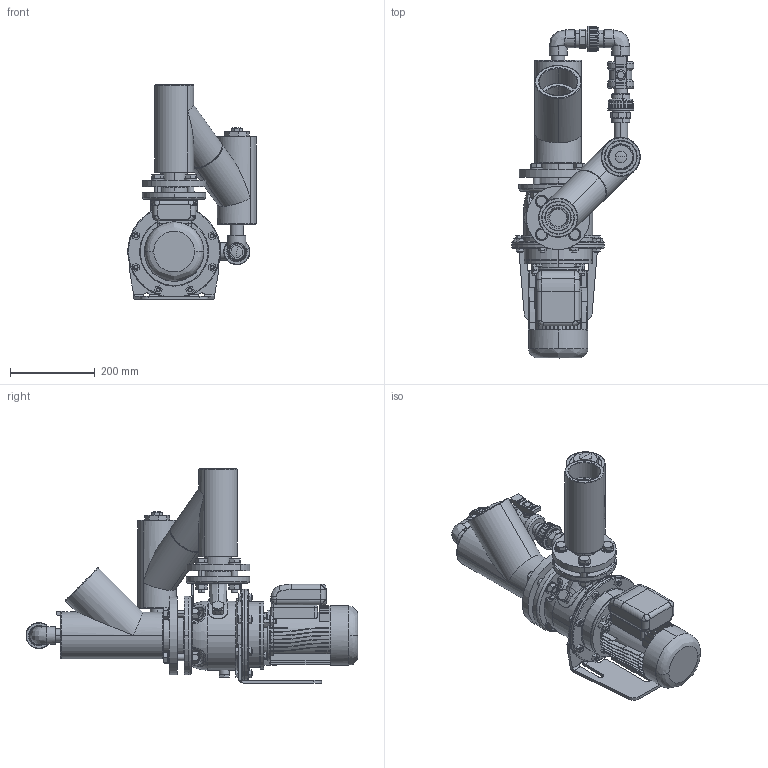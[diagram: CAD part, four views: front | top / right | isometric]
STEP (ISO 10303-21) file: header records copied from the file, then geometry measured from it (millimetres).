
FILE_DESCRIPTION (( 'STEP AP203' ), '1' );
FILE_NAME ('Lowara SHE 40-125 z.a.z handbed. by-pass.STEP', '2011-04-06T09:18:25', ( '' ), ( '' ), 'SwSTEP 2.0', 'SolidWorks 2010', '' );
FILE_SCHEMA (( 'CONFIG_CONTROL_DESIGN' ));
Length unit declared in the file: millimetre
Products named in the file (1): Lowara SHE 40-125 z.a.z handbed. by-pass
Bounding box: 303.4 x 783.89 x 505.48 mm (x, y, z)
Volume: 12734477.4 mm3; surface area: 1895746.5 mm2
Topology: 63 solids, 65 shells, 2566 faces, 6486 edges, 4028 vertices
Faces by surface type: plane 970, cylinder 811, cone 382, bspline 381, torus 22
Entity records: 102661 total; most frequent: CARTESIAN_POINT 43896, ORIENTED_EDGE 12726, DIRECTION 11763, EDGE_CURVE 6363, AXIS2_PLACEMENT_3D 4649, VERTEX_POINT 4028, EDGE_LOOP 2839, FACE_OUTER_BOUND 2566
